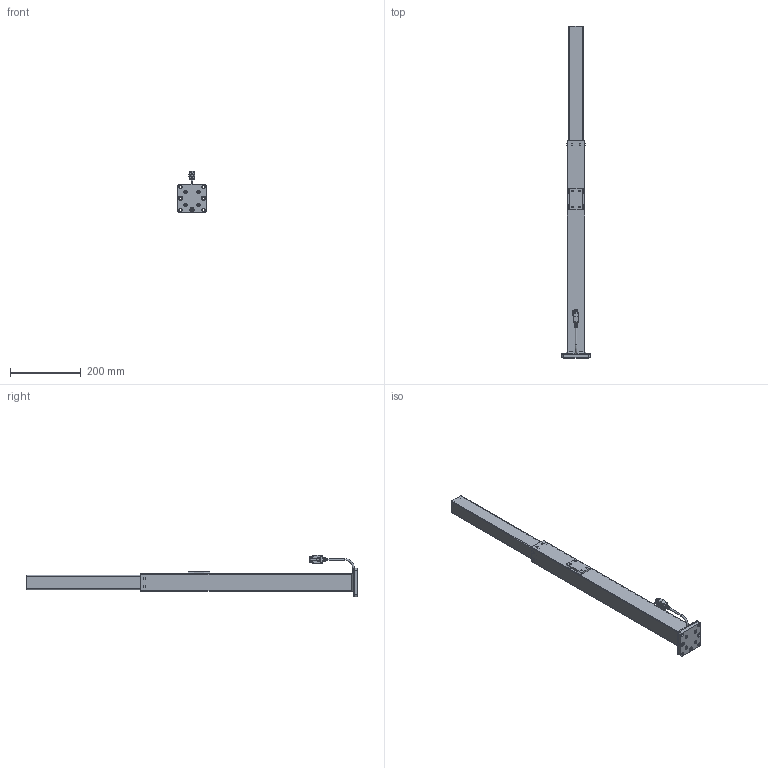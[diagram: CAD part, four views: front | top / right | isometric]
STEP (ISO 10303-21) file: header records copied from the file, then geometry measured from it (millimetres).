
FILE_DESCRIPTION(/* description */ ('Unknown'),/* implementation_level */ '2;1');
FILE_NAME(/* name */ '908.02003_00-Ausgefahren',/* time_stamp */ '2022-02-03T17:05:39+01:00',/* author */ ('Unknown'),/* organization */ ('Unknown'),/* preprocessor_version */ 'ST-DEVELOPER v18.1',/* originating_system */ 'Solid Edge',/* authorisation */ 'Unknown');
FILE_SCHEMA (('AUTOMOTIVE_DESIGN {1 0 10303 214 3 1 1}'));
Length unit declared in the file: millimetre
Products named in the file (14): 908.02003; 127.00655; 127.00658; Aussenrohr 50x50x2 bearbeitet_2018 08 15; Flanschplatte_2018 08 15; Anschweissplatte Traverse_2018 08 15; 127.00658_515_565_Kehlnaht 2_oa_0; 127.00658_515_565_Kehlnaht 2_oa_1; 127.00660; Innenrohr 40x40x2_2018 08 15; Bodenplatte_2018 0815; 128.00070; 142.00166; Kabel Molex
Assembly tree (23 placements, depth 3):
  908.02003
    127.00655
    127.00658
      Aussenrohr 50x50x2 bearbeitet_2018 08 15
      Flanschplatte_2018 08 15
      Anschweissplatte Traverse_2018 08 15
      127.00658_515_565_Kehlnaht 2_oa_0
      127.00658_515_565_Kehlnaht 2_oa_1
    127.00660
      Innenrohr 40x40x2_2018 08 15
      Bodenplatte_2018 0815
    128.00070  x8
    142.00166  x4
    Kabel Molex
Bounding box: 80 x 940 x 116.67 mm (x, y, z)
Volume: 474538.1 mm3; surface area: 415209 mm2
Topology: 28 solids, 28 shells, 892 faces, 2317 edges, 1526 vertices
Faces by surface type: plane 631, cylinder 164, torus 50, bspline 36, cone 11
Full cylindrical faces by diameter (mm): 4.917 x7, 5 x6, 5.5 x4, 6.5 x3, 8.376 x1, 8.5 x4, 9 x8, 10 x4, 13 x3
Entity records: 26523 total; most frequent: CARTESIAN_POINT 5509, ORIENTED_EDGE 3532, DIRECTION 3488, EDGE_CURVE 1766, LINE 1212, VECTOR 1212, VERTEX_POINT 1188, AXIS2_PLACEMENT_3D 1138
